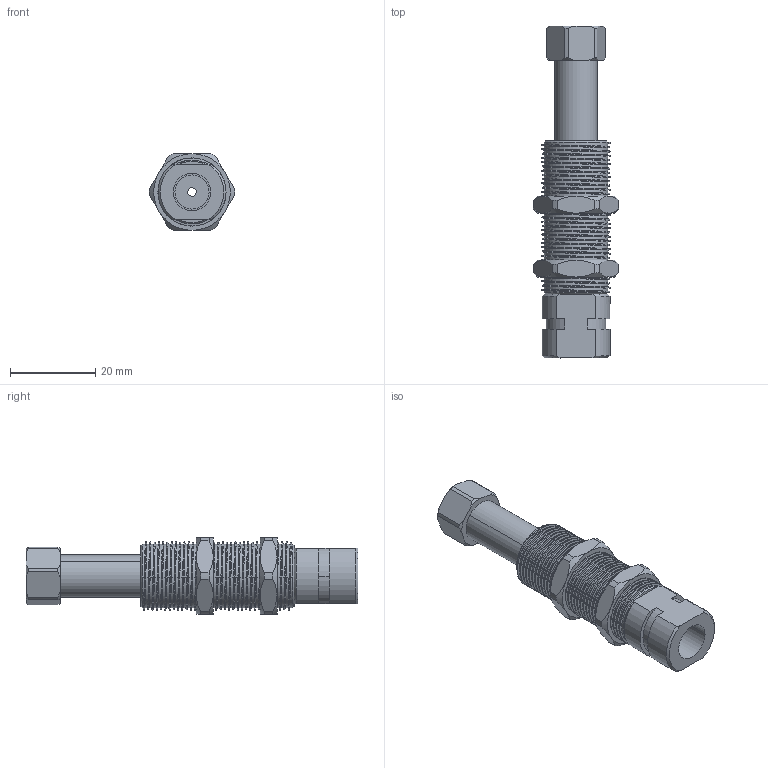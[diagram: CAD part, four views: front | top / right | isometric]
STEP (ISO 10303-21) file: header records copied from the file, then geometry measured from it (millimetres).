
FILE_DESCRIPTION (( 'STEP AP214' ), '1' );
FILE_NAME ('VFRS-20M16-G18.STEP', '2019-11-15T08:53:11', ( '微软用户' ), ( '微软中国' ), 'SwSTEP 2.0', 'SolidWorks 2016', '' );
FILE_SCHEMA (( 'AUTOMOTIVE_DESIGN' ));
Length unit declared in the file: millimetre
Products named in the file (1): VFRS-20M16-G18
Bounding box: 19.99 x 78 x 18 mm (x, y, z)
Volume: 10055.2 mm3; surface area: 9942.6 mm2
Topology: 5 solids, 5 shells, 206 faces, 549 edges, 355 vertices
Faces by surface type: cylinder 116, cone 49, plane 38, bspline 3
Entity records: 14223 total; most frequent: CARTESIAN_POINT 7209, ORIENTED_EDGE 1098, DIRECTION 876, EDGE_CURVE 549, VERTEX_POINT 355, AXIS2_PLACEMENT_3D 348, EDGE_LOOP 218, UNCERTAINTY_MEASURE_WITH_UNIT 213
